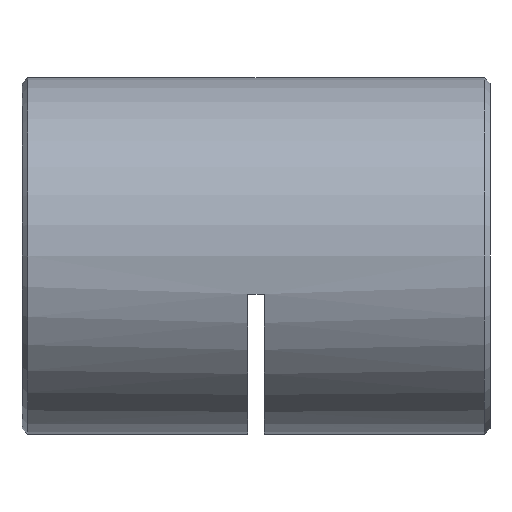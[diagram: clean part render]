
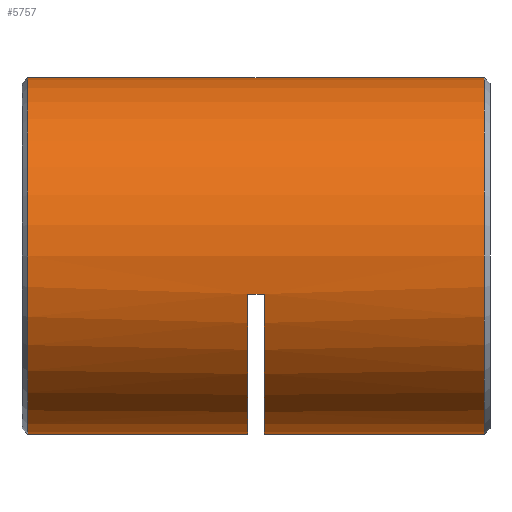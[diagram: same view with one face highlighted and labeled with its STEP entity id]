
A CAD part, left-side view. The second image highlights one B-rep face of the part: STEP entity #5757.
In plain terms, the highlighted cylindrical face has radius 16 mm (diameter 32 mm), a partial arc.
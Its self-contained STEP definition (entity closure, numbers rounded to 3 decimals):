
#143 = CIRCLE ( 'NONE', #3746, 16. ) ;
#154 = AXIS2_PLACEMENT_3D ( 'NONE', #5877, #6360, #1972 ) ;
#175 = CIRCLE ( 'NONE', #6222, 16. ) ;
#198 = CARTESIAN_POINT ( 'NONE',  ( 0., 42.5, 0. ) ) ;
#242 = CARTESIAN_POINT ( 'NONE',  ( 0., 41.75, 16. ) ) ;
#263 = VERTEX_POINT ( 'NONE', #1535 ) ;
#524 = CARTESIAN_POINT ( 'NONE',  ( 0., 0.75, 16. ) ) ;
#585 = VECTOR ( 'NONE', #4464, 1000. ) ;
#711 = ORIENTED_EDGE ( 'NONE', *, *, #5949, .T. ) ;
#802 = CARTESIAN_POINT ( 'NONE',  ( 0., 0.75, 0. ) ) ;
#951 = VERTEX_POINT ( 'NONE', #3601 ) ;
#974 = LINE ( 'NONE', #1028, #585 ) ;
#1028 = CARTESIAN_POINT ( 'NONE',  ( -15.632, 21.25, -3.413 ) ) ;
#1045 = CIRCLE ( 'NONE', #154, 16. ) ;
#1108 = DIRECTION ( 'NONE',  ( 0., -1., 0. ) ) ;
#1367 = DIRECTION ( 'NONE',  ( 0., 0., -1. ) ) ;
#1535 = CARTESIAN_POINT ( 'NONE',  ( 0., 0.75, -16. ) ) ;
#1748 = EDGE_CURVE ( 'NONE', #3059, #3537, #3356, .T. ) ;
#1844 = DIRECTION ( 'NONE',  ( 0., -1., 0. ) ) ;
#1873 = VECTOR ( 'NONE', #4282, 1000. ) ;
#1877 = EDGE_CURVE ( 'NONE', #263, #3537, #143, .T. ) ;
#1921 = CYLINDRICAL_SURFACE ( 'NONE', #2127, 16. ) ;
#1972 = DIRECTION ( 'NONE',  ( 0., 0., -1. ) ) ;
#2127 = AXIS2_PLACEMENT_3D ( 'NONE', #198, #1108, #3095 ) ;
#2154 = DIRECTION ( 'NONE',  ( 0., 0., 1. ) ) ;
#2159 = ORIENTED_EDGE ( 'NONE', *, *, #2903, .T. ) ;
#2217 = EDGE_LOOP ( 'NONE', ( #4220, #4060, #2159, #4121, #3298, #711, #3160, #4331 ) ) ;
#2377 = CARTESIAN_POINT ( 'NONE',  ( 0., 20.5, 0. ) ) ;
#2903 = EDGE_CURVE ( 'NONE', #951, #4300, #3186, .T. ) ;
#3059 = VERTEX_POINT ( 'NONE', #242 ) ;
#3076 = FACE_OUTER_BOUND ( 'NONE', #2217, .T. ) ;
#3095 = DIRECTION ( 'NONE',  ( 0., 0., -1. ) ) ;
#3160 = ORIENTED_EDGE ( 'NONE', *, *, #3856, .T. ) ;
#3186 = LINE ( 'NONE', #5665, #1873 ) ;
#3234 = CARTESIAN_POINT ( 'NONE',  ( 0., 20.5, -16. ) ) ;
#3298 = ORIENTED_EDGE ( 'NONE', *, *, #3534, .T. ) ;
#3356 = LINE ( 'NONE', #5530, #4960 ) ;
#3493 = EDGE_CURVE ( 'NONE', #4602, #4300, #1045, .T. ) ;
#3534 = EDGE_CURVE ( 'NONE', #4602, #5717, #974, .T. ) ;
#3537 = VERTEX_POINT ( 'NONE', #524 ) ;
#3572 = AXIS2_PLACEMENT_3D ( 'NONE', #3783, #6280, #1367 ) ;
#3582 = CARTESIAN_POINT ( 'NONE',  ( -15.632, 22., -3.413 ) ) ;
#3601 = CARTESIAN_POINT ( 'NONE',  ( 0., 41.75, -16. ) ) ;
#3746 = AXIS2_PLACEMENT_3D ( 'NONE', #802, #4711, #2154 ) ;
#3756 = DIRECTION ( 'NONE',  ( 0., 0., -1. ) ) ;
#3783 = CARTESIAN_POINT ( 'NONE',  ( 0., 41.75, 0. ) ) ;
#3856 = EDGE_CURVE ( 'NONE', #4868, #263, #5485, .T. ) ;
#4060 = ORIENTED_EDGE ( 'NONE', *, *, #5987, .T. ) ;
#4121 = ORIENTED_EDGE ( 'NONE', *, *, #3493, .F. ) ;
#4220 = ORIENTED_EDGE ( 'NONE', *, *, #1748, .F. ) ;
#4282 = DIRECTION ( 'NONE',  ( 0., -1., 0. ) ) ;
#4300 = VERTEX_POINT ( 'NONE', #6245 ) ;
#4331 = ORIENTED_EDGE ( 'NONE', *, *, #1877, .T. ) ;
#4464 = DIRECTION ( 'NONE',  ( 0., -1., 0. ) ) ;
#4569 = CARTESIAN_POINT ( 'NONE',  ( -15.632, 20.5, -3.413 ) ) ;
#4602 = VERTEX_POINT ( 'NONE', #3582 ) ;
#4711 = DIRECTION ( 'NONE',  ( 0., 1., 0. ) ) ;
#4868 = VERTEX_POINT ( 'NONE', #3234 ) ;
#4960 = VECTOR ( 'NONE', #5583, 1000. ) ;
#5226 = CIRCLE ( 'NONE', #3572, 16. ) ;
#5283 = CARTESIAN_POINT ( 'NONE',  ( 0., 42.5, -16. ) ) ;
#5485 = LINE ( 'NONE', #5283, #5881 ) ;
#5530 = CARTESIAN_POINT ( 'NONE',  ( 0., 42.5, 16. ) ) ;
#5583 = DIRECTION ( 'NONE',  ( 0., -1., 0. ) ) ;
#5665 = CARTESIAN_POINT ( 'NONE',  ( 0., 42.5, -16. ) ) ;
#5717 = VERTEX_POINT ( 'NONE', #4569 ) ;
#5757 = ADVANCED_FACE ( 'NONE', ( #3076 ), #1921, .T. ) ;
#5877 = CARTESIAN_POINT ( 'NONE',  ( 0., 22., 0. ) ) ;
#5881 = VECTOR ( 'NONE', #6277, 1000. ) ;
#5949 = EDGE_CURVE ( 'NONE', #5717, #4868, #175, .T. ) ;
#5987 = EDGE_CURVE ( 'NONE', #3059, #951, #5226, .T. ) ;
#6222 = AXIS2_PLACEMENT_3D ( 'NONE', #2377, #1844, #3756 ) ;
#6245 = CARTESIAN_POINT ( 'NONE',  ( 0., 22., -16. ) ) ;
#6277 = DIRECTION ( 'NONE',  ( 0., -1., 0. ) ) ;
#6280 = DIRECTION ( 'NONE',  ( 0., -1., 0. ) ) ;
#6360 = DIRECTION ( 'NONE',  ( 0., -1., 0. ) ) ;
